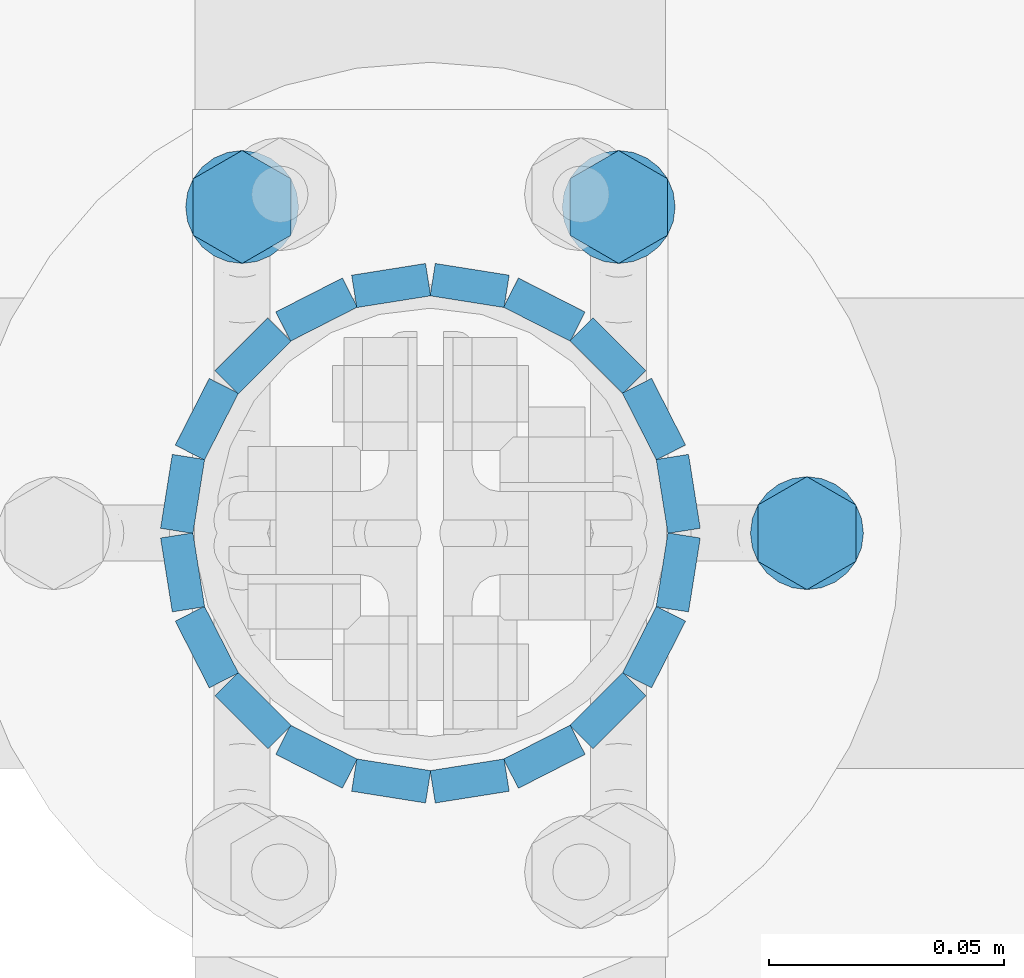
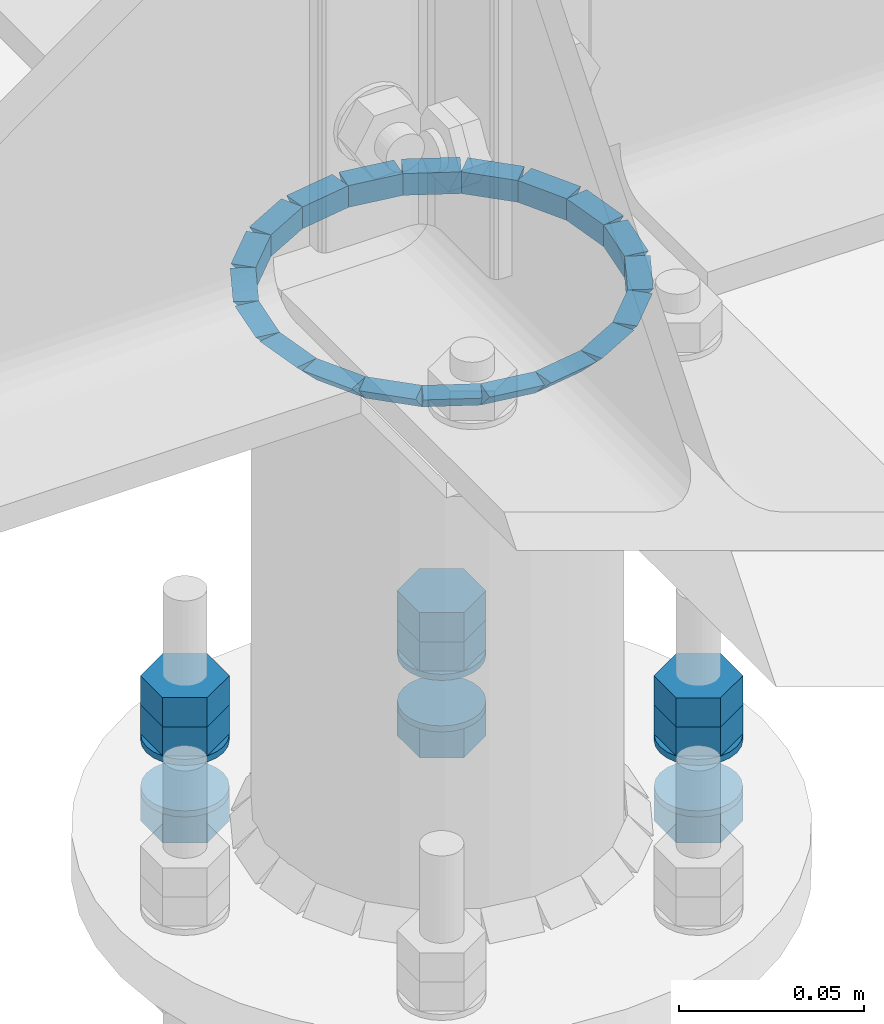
# One storey, part 59 of 84: 40 fasteners, 15 mechanical fasteners.
"""IFC4 building model written with IfcOpenShell, lengths in metres."""

from ifc_helpers import new_model, si_unit, frame, origin_with_axes, place, context, project, spatial, polyline, outline, extrude, type_object, element, save


model = new_model("IFC4")

# Units and contexts
model_context = context("Model", 3, precision=1e-05, world=origin_with_axes())
ifc_project = project(units=[si_unit("LENGTHUNIT", "METRE"), si_unit("AREAUNIT", "SQUARE_METRE"), si_unit("VOLUMEUNIT", "CUBIC_METRE"), si_unit("MASSUNIT", "GRAM", prefix="KILO"), si_unit("TIMEUNIT", "SECOND"), si_unit("PLANEANGLEUNIT", "RADIAN"), si_unit("SOLIDANGLEUNIT", "STERADIAN"), si_unit("THERMODYNAMICTEMPERATUREUNIT", "DEGREE_CELSIUS")], contexts=[model_context])

# Site, building, storey
placement_1 = place(None, origin_with_axes())
site = spatial("IfcSite", under=ifc_project, at=placement_1, Name="Italia", CompositionType="ELEMENT")
building = spatial("IfcBuilding", under=site, at=placement_1, Name="Tettoia", CompositionType="ELEMENT")
storey_placement = place(None, frame((0.0, 0.0, 4.199999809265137), z_axis=(0.0, 0.0, 1.0), x_axis=(1.0, 0.0, 0.0)))
storey = spatial("IfcBuildingStorey", under=building, at=storey_placement, Name="Storey 1", CompositionType="ELEMENT", Elevation=4.199999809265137)

# Mechanical fasteners
mechanical_fastener_type_1 = type_object("IfcMechanicalFastenerType", Name="Collegamento -009_0109", PredefinedType="BOLT")
placement_2 = place(placement_1, origin_with_axes())
mechanical_fastener_1_placement = place(placement_2, origin_with_axes())
element("IfcMechanicalFastener", 1, at=mechanical_fastener_1_placement, inside=storey, type_object=mechanical_fastener_type_1, Name="Collegamento -009_0109", NominalDiameter=0.0119991, context=model_context, shape_type="SweptSolid", body=[
    extrude(outline(polyline([(0.0, 0.0), (-0.0119991, 0.0), (-0.0179996, 0.0103922), (-0.0119991, 0.0207844), (0.0, 0.0207844), (0.00600052, 0.0103922), (0.0, 0.0)])), frame((8.38039, 9.976, 4.017), z_axis=(0.0, 0.0, 1.0), x_axis=(0.0, 1.0, 0.0)), (0.0, 0.0, 1.0), 0.00959969),
])
mechanical_fastener_type_2 = type_object("IfcMechanicalFastenerType", Name="Collegamento -009_0109", PredefinedType="BOLT")
mechanical_fastener_2_placement = place(placement_2, origin_with_axes())
element("IfcMechanicalFastener", 2, at=mechanical_fastener_2_placement, inside=storey, type_object=mechanical_fastener_type_2, Name="Collegamento -009_0109", NominalDiameter=0.0119991, context=model_context, shape_type="SweptSolid", body=[
    extrude(outline(polyline([(0.0, 0.0), (-0.0119991, 0.0), (-0.0179996, 0.0103922), (-0.0119991, 0.0207844), (0.0, 0.0207844), (0.00600052, 0.0103922), (0.0, 0.0)])), frame((8.38039, 9.976, 4.0266), z_axis=(0.0, 0.0, 1.0), x_axis=(0.0, 1.0, 0.0)), (0.0, 0.0, 1.0), 0.00960016),
])
mechanical_fastener_type_3 = type_object("IfcMechanicalFastenerType", Name="Collegamento -009_0109", PredefinedType="BOLT")
mechanical_fastener_3_placement = place(placement_2, origin_with_axes())
element("IfcMechanicalFastener", 3, at=mechanical_fastener_3_placement, inside=storey, type_object=mechanical_fastener_type_3, Name="Collegamento -009_0109", NominalDiameter=0.0119991, context=model_context, shape_type="SweptSolid", body=[
    extrude(outline(polyline([(0.0, 0.0), (-0.0119991, 0.0), (-0.0179996, 0.0103922), (-0.0119991, 0.0207844), (0.0, 0.0207844), (0.00600052, 0.0103922), (0.0, 0.0)])), frame((8.38039, 9.976, 3.9884), z_axis=(0.0, 0.0, 1.0), x_axis=(0.0, 1.0, 0.0)), (0.0, 0.0, 1.0), 0.00959992),
])
mechanical_fastener_type_4 = type_object("IfcMechanicalFastenerType", Name="Collegamento -009_0109", PredefinedType="BOLT")
mechanical_fastener_4_placement = place(placement_2, origin_with_axes())
element("IfcMechanicalFastener", 4, at=mechanical_fastener_4_placement, inside=storey, type_object=mechanical_fastener_type_4, Name="Collegamento -009_0109", NominalDiameter=0.024, context=model_context, shape_type="SweptSolid", body=[
    extrude(outline(polyline([(0.0, 0.0), (-0.000409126, -0.00310612), (-0.00160789, -0.00599957), (-0.00351524, -0.00848484), (-0.00600052, -0.0103922), (-0.00889397, -0.011591), (-0.0120001, -0.0120001), (-0.0151062, -0.011591), (-0.0179996, -0.0103922), (-0.0204849, -0.00848484), (-0.0223923, -0.00599957), (-0.023591, -0.00310612), (-0.0240002, 0.0), (-0.023591, 0.00310612), (-0.0223923, 0.00599957), (-0.0204849, 0.00848484), (-0.0179996, 0.0103922), (-0.0151062, 0.011591), (-0.0120001, 0.0120001), (-0.00889397, 0.011591), (-0.00600052, 0.0103922), (-0.00351524, 0.00848484), (-0.00160789, 0.00599957), (-0.000409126, 0.00310612), (0.0, 0.0)])), frame((8.37, 9.982, 4.015), z_axis=(0.0, 0.0, 1.0), x_axis=(0.0, 1.0, 0.0)), (0.0, 0.0, 1.0), 0.00200033),
])
mechanical_fastener_type_5 = type_object("IfcMechanicalFastenerType", Name="Collegamento -009_0109", PredefinedType="BOLT")
mechanical_fastener_5_placement = place(placement_2, origin_with_axes())
element("IfcMechanicalFastener", 5, at=mechanical_fastener_5_placement, inside=storey, type_object=mechanical_fastener_type_5, Name="Collegamento -009_0109", NominalDiameter=0.024, context=model_context, shape_type="SweptSolid", body=[
    extrude(outline(polyline([(0.0, 0.0), (-0.000409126, -0.00310612), (-0.00160789, -0.00599957), (-0.00351524, -0.00848484), (-0.00600052, -0.0103922), (-0.00889397, -0.011591), (-0.0120001, -0.0120001), (-0.0151062, -0.011591), (-0.0179996, -0.0103922), (-0.0204849, -0.00848484), (-0.0223923, -0.00599957), (-0.023591, -0.00310612), (-0.0240002, 0.0), (-0.023591, 0.00310612), (-0.0223923, 0.00599957), (-0.0204849, 0.00848484), (-0.0179996, 0.0103922), (-0.0151062, 0.011591), (-0.0120001, 0.0120001), (-0.00889397, 0.011591), (-0.00600052, 0.0103922), (-0.00351524, 0.00848484), (-0.00160789, 0.00599957), (-0.000409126, 0.00310612), (0.0, 0.0)])), frame((8.37, 9.982, 3.998), z_axis=(0.0, 0.0, 1.0), x_axis=(0.0, 1.0, 0.0)), (0.0, 0.0, 1.0), 0.00200009),
])
mechanical_fastener_type_6 = type_object("IfcMechanicalFastenerType", Name="Collegamento -009_0109", PredefinedType="BOLT")
mechanical_fastener_6_placement = place(placement_2, origin_with_axes())
element("IfcMechanicalFastener", 6, at=mechanical_fastener_6_placement, inside=storey, type_object=mechanical_fastener_type_6, Name="Collegamento -009_0109", NominalDiameter=0.0119997, context=model_context, shape_type="SweptSolid", body=[
    extrude(outline(polyline([(0.0, 0.0), (-0.0120001, 0.0), (-0.0179996, 0.0103922), (-0.0120001, 0.0207844), (0.0, 0.0207844), (0.00599957, 0.0103922), (0.0, 0.0)])), frame((8.34039, 10.0453, 4.017), z_axis=(0.0, 0.0, 1.0), x_axis=(0.0, 1.0, 0.0)), (0.0, 0.0, 1.0), 0.00959969),
])
mechanical_fastener_type_7 = type_object("IfcMechanicalFastenerType", Name="Collegamento -009_0109", PredefinedType="BOLT")
mechanical_fastener_7_placement = place(placement_2, origin_with_axes())
element("IfcMechanicalFastener", 7, at=mechanical_fastener_7_placement, inside=storey, type_object=mechanical_fastener_type_7, Name="Collegamento -009_0109", NominalDiameter=0.0119997, context=model_context, shape_type="SweptSolid", body=[
    extrude(outline(polyline([(0.0, 0.0), (-0.0120001, 0.0), (-0.0179996, 0.0103922), (-0.0120001, 0.0207844), (0.0, 0.0207844), (0.00599957, 0.0103922), (0.0, 0.0)])), frame((8.34039, 10.0453, 4.0266), z_axis=(0.0, 0.0, 1.0), x_axis=(0.0, 1.0, 0.0)), (0.0, 0.0, 1.0), 0.00960016),
])
mechanical_fastener_type_8 = type_object("IfcMechanicalFastenerType", Name="Collegamento -009_0109", PredefinedType="BOLT")
mechanical_fastener_8_placement = place(placement_2, origin_with_axes())
element("IfcMechanicalFastener", 8, at=mechanical_fastener_8_placement, inside=storey, type_object=mechanical_fastener_type_8, Name="Collegamento -009_0109", NominalDiameter=0.0119997, context=model_context, shape_type="SweptSolid", body=[
    extrude(outline(polyline([(0.0, 0.0), (-0.0120001, 0.0), (-0.0179996, 0.0103922), (-0.0120001, 0.0207844), (0.0, 0.0207844), (0.00599957, 0.0103922), (0.0, 0.0)])), frame((8.34039, 10.0453, 3.9884), z_axis=(0.0, 0.0, 1.0), x_axis=(0.0, 1.0, 0.0)), (0.0, 0.0, 1.0), 0.00959992),
])
mechanical_fastener_type_9 = type_object("IfcMechanicalFastenerType", Name="Collegamento -009_0109", PredefinedType="BOLT")
mechanical_fastener_9_placement = place(placement_2, origin_with_axes())
element("IfcMechanicalFastener", 9, at=mechanical_fastener_9_placement, inside=storey, type_object=mechanical_fastener_type_9, Name="Collegamento -009_0109", NominalDiameter=0.024, context=model_context, shape_type="SweptSolid", body=[
    extrude(outline(polyline([(0.0, 0.0), (-0.000409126, -0.00310612), (-0.00160789, -0.00599957), (-0.00351524, -0.00848484), (-0.00600052, -0.0103922), (-0.00889397, -0.011591), (-0.0120001, -0.0120001), (-0.0151062, -0.011591), (-0.0179996, -0.0103922), (-0.0204849, -0.00848484), (-0.0223923, -0.00599957), (-0.023591, -0.00310612), (-0.0240002, 0.0), (-0.023591, 0.00310612), (-0.0223923, 0.00599957), (-0.0204849, 0.00848484), (-0.0179996, 0.0103922), (-0.0151062, 0.011591), (-0.0120001, 0.0120001), (-0.00889397, 0.011591), (-0.00600052, 0.0103922), (-0.00351524, 0.00848484), (-0.00160789, 0.00599957), (-0.000409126, 0.00310612), (0.0, 0.0)])), frame((8.33, 10.0513, 4.015), z_axis=(0.0, 0.0, 1.0), x_axis=(0.0, 1.0, 0.0)), (0.0, 0.0, 1.0), 0.00200033),
])
mechanical_fastener_type_10 = type_object("IfcMechanicalFastenerType", Name="Collegamento -009_0109", PredefinedType="BOLT")
mechanical_fastener_10_placement = place(placement_2, origin_with_axes())
element("IfcMechanicalFastener", 10, at=mechanical_fastener_10_placement, inside=storey, type_object=mechanical_fastener_type_10, Name="Collegamento -009_0109", NominalDiameter=0.024, context=model_context, shape_type="SweptSolid", body=[
    extrude(outline(polyline([(0.0, 0.0), (-0.000409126, -0.00310612), (-0.00160789, -0.00599957), (-0.00351524, -0.00848484), (-0.00600052, -0.0103922), (-0.00889397, -0.011591), (-0.0120001, -0.0120001), (-0.0151062, -0.011591), (-0.0179996, -0.0103922), (-0.0204849, -0.00848484), (-0.0223923, -0.00599957), (-0.023591, -0.00310612), (-0.0240002, 0.0), (-0.023591, 0.00310612), (-0.0223923, 0.00599957), (-0.0204849, 0.00848484), (-0.0179996, 0.0103922), (-0.0151062, 0.011591), (-0.0120001, 0.0120001), (-0.00889397, 0.011591), (-0.00600052, 0.0103922), (-0.00351524, 0.00848484), (-0.00160789, 0.00599957), (-0.000409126, 0.00310612), (0.0, 0.0)])), frame((8.33, 10.0513, 3.998), z_axis=(0.0, 0.0, 1.0), x_axis=(0.0, 1.0, 0.0)), (0.0, 0.0, 1.0), 0.00200009),
])
mechanical_fastener_type_11 = type_object("IfcMechanicalFastenerType", Name="Collegamento -009_0109", PredefinedType="BOLT")
mechanical_fastener_11_placement = place(placement_2, origin_with_axes())
element("IfcMechanicalFastener", 11, at=mechanical_fastener_11_placement, inside=storey, type_object=mechanical_fastener_type_11, Name="Collegamento -009_0109", NominalDiameter=0.0119997, context=model_context, shape_type="SweptSolid", body=[
    extrude(outline(polyline([(0.0, 0.0), (-0.0120001, 0.0), (-0.0179996, 0.0103922), (-0.0120001, 0.0207844), (0.0, 0.0207844), (0.00599957, 0.0103922), (0.0, 0.0)])), frame((8.26039, 10.0453, 4.017), z_axis=(0.0, 0.0, 1.0), x_axis=(0.0, 1.0, 0.0)), (0.0, 0.0, 1.0), 0.00959969),
])
mechanical_fastener_type_12 = type_object("IfcMechanicalFastenerType", Name="Collegamento -009_0109", PredefinedType="BOLT")
mechanical_fastener_12_placement = place(placement_2, origin_with_axes())
element("IfcMechanicalFastener", 12, at=mechanical_fastener_12_placement, inside=storey, type_object=mechanical_fastener_type_12, Name="Collegamento -009_0109", NominalDiameter=0.0119997, context=model_context, shape_type="SweptSolid", body=[
    extrude(outline(polyline([(0.0, 0.0), (-0.0120001, 0.0), (-0.0179996, 0.0103922), (-0.0120001, 0.0207844), (0.0, 0.0207844), (0.00599957, 0.0103922), (0.0, 0.0)])), frame((8.26039, 10.0453, 4.0266), z_axis=(0.0, 0.0, 1.0), x_axis=(0.0, 1.0, 0.0)), (0.0, 0.0, 1.0), 0.00960016),
])
mechanical_fastener_type_13 = type_object("IfcMechanicalFastenerType", Name="Collegamento -009_0109", PredefinedType="BOLT")
mechanical_fastener_13_placement = place(placement_2, origin_with_axes())
element("IfcMechanicalFastener", 13, at=mechanical_fastener_13_placement, inside=storey, type_object=mechanical_fastener_type_13, Name="Collegamento -009_0109", NominalDiameter=0.0119997, context=model_context, shape_type="SweptSolid", body=[
    extrude(outline(polyline([(0.0, 0.0), (-0.0120001, 0.0), (-0.0179996, 0.0103922), (-0.0120001, 0.0207844), (0.0, 0.0207844), (0.00599957, 0.0103922), (0.0, 0.0)])), frame((8.26039, 10.0453, 3.9884), z_axis=(0.0, 0.0, 1.0), x_axis=(0.0, 1.0, 0.0)), (0.0, 0.0, 1.0), 0.00959992),
])
mechanical_fastener_type_14 = type_object("IfcMechanicalFastenerType", Name="Collegamento -009_0109", PredefinedType="BOLT")
mechanical_fastener_14_placement = place(placement_2, origin_with_axes())
element("IfcMechanicalFastener", 14, at=mechanical_fastener_14_placement, inside=storey, type_object=mechanical_fastener_type_14, Name="Collegamento -009_0109", NominalDiameter=0.024, context=model_context, shape_type="SweptSolid", body=[
    extrude(outline(polyline([(0.0, 0.0), (-0.000409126, -0.00310612), (-0.00160789, -0.00599957), (-0.00351524, -0.00848484), (-0.00600052, -0.0103922), (-0.00889397, -0.011591), (-0.0120001, -0.0120001), (-0.0151062, -0.011591), (-0.0179996, -0.0103922), (-0.0204849, -0.00848484), (-0.0223923, -0.00599957), (-0.023591, -0.00310612), (-0.0240002, 0.0), (-0.023591, 0.00310612), (-0.0223923, 0.00599957), (-0.0204849, 0.00848484), (-0.0179996, 0.0103922), (-0.0151062, 0.011591), (-0.0120001, 0.0120001), (-0.00889397, 0.011591), (-0.00600052, 0.0103922), (-0.00351524, 0.00848484), (-0.00160789, 0.00599957), (-0.000409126, 0.00310612), (0.0, 0.0)])), frame((8.25, 10.0513, 4.015), z_axis=(0.0, 0.0, 1.0), x_axis=(0.0, 1.0, 0.0)), (0.0, 0.0, 1.0), 0.00200033),
])
mechanical_fastener_type_15 = type_object("IfcMechanicalFastenerType", Name="Collegamento -009_0109", PredefinedType="BOLT")
mechanical_fastener_15_placement = place(placement_2, origin_with_axes())
element("IfcMechanicalFastener", 15, at=mechanical_fastener_15_placement, inside=storey, type_object=mechanical_fastener_type_15, Name="Collegamento -009_0109", NominalDiameter=0.024, context=model_context, shape_type="SweptSolid", body=[
    extrude(outline(polyline([(0.0, 0.0), (-0.000409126, -0.00310612), (-0.00160789, -0.00599957), (-0.00351524, -0.00848484), (-0.00600052, -0.0103922), (-0.00889397, -0.011591), (-0.0120001, -0.0120001), (-0.0151062, -0.011591), (-0.0179996, -0.0103922), (-0.0204849, -0.00848484), (-0.0223923, -0.00599957), (-0.023591, -0.00310612), (-0.0240002, 0.0), (-0.023591, 0.00310612), (-0.0223923, 0.00599957), (-0.0204849, 0.00848484), (-0.0179996, 0.0103922), (-0.0151062, 0.011591), (-0.0120001, 0.0120001), (-0.00889397, 0.011591), (-0.00600052, 0.0103922), (-0.00351524, 0.00848484), (-0.00160789, 0.00599957), (-0.000409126, 0.00310612), (0.0, 0.0)])), frame((8.25, 10.0513, 3.998), z_axis=(0.0, 0.0, 1.0), x_axis=(0.0, 1.0, 0.0)), (0.0, 0.0, 1.0), 0.00200009),
])

# Fasteners
fastener_type_1 = type_object("IfcFastenerType", Name="Collegamento 0109_-009", PredefinedType="WELD")
fastener_1_placement = place(placement_2, origin_with_axes())
element("IfcFastener", 16, at=fastener_1_placement, inside=storey, type_object=fastener_type_1, Name="Collegamento 0109_-009", context=model_context, shape_type="SweptSolid", body=[
    extrude(outline(polyline([(0.0, 0.0), (-0.00695801, -0.00717354), (-0.00695801, 0.0), (0.0, 0.0)])), frame((8.29103, 10.0273, 4.19505), z_axis=(0.987678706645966, -0.156495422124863, 0.0), x_axis=(0.156495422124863, 0.987678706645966, 0.0)), (0.0, 0.0, 1.0), 0.0158991),
])
fastener_type_2 = type_object("IfcFastenerType", Name="Collegamento 0109_-009", PredefinedType="WELD")
fastener_2_placement = place(placement_2, origin_with_axes())
element("IfcFastener", 17, at=fastener_2_placement, inside=storey, type_object=fastener_type_2, Name="Collegamento 0109_-009", context=model_context, shape_type="SweptSolid", body=[
    extrude(outline(polyline([(0.0, 0.0), (-0.00695801, -0.00717354), (-0.00695801, 0.0), (0.0, 0.0)])), frame((8.3087, 10.0242, 4.19505), z_axis=(0.891030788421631, -0.453942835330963, 0.0), x_axis=(0.453942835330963, 0.891030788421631, 0.0)), (0.0, 0.0, 1.0), 0.0158994),
])
fastener_type_3 = type_object("IfcFastenerType", Name="Collegamento 0109_-009", PredefinedType="WELD")
fastener_3_placement = place(placement_2, origin_with_axes())
element("IfcFastener", 18, at=fastener_3_placement, inside=storey, type_object=fastener_type_3, Name="Collegamento 0109_-009", context=model_context, shape_type="SweptSolid", body=[
    extrude(outline(polyline([(0.0, 0.0), (-0.00695801, -0.00717354), (-0.00695801, 0.0), (0.0, 0.0)])), frame((8.32453, 10.0158, 4.19505), z_axis=(0.70710676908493, -0.70710676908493, 0.0), x_axis=(0.70710676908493, 0.70710676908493, 0.0)), (0.0, 0.0, 1.0), 0.0158998),
])
fastener_type_4 = type_object("IfcFastenerType", Name="Collegamento 0109_-009", PredefinedType="WELD")
fastener_4_placement = place(placement_2, origin_with_axes())
element("IfcFastener", 19, at=fastener_4_placement, inside=storey, type_object=fastener_type_4, Name="Collegamento 0109_-009", context=model_context, shape_type="SweptSolid", body=[
    extrude(outline(polyline([(0.0, 0.0), (-0.00695896, -0.00717354), (-0.00695896, 0.0), (0.0, 0.0)])), frame((8.33699, 10.0029, 4.19505), z_axis=(0.453942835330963, -0.891030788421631, 0.0), x_axis=(0.891030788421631, 0.453942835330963, 0.0)), (0.0, 0.0, 1.0), 0.0158994),
])
fastener_type_5 = type_object("IfcFastenerType", Name="Collegamento 0109_-009", PredefinedType="WELD")
fastener_5_placement = place(placement_2, origin_with_axes())
element("IfcFastener", 20, at=fastener_5_placement, inside=storey, type_object=fastener_type_5, Name="Collegamento 0109_-009", context=model_context, shape_type="SweptSolid", body=[
    extrude(outline(polyline([(0.0, 0.0), (-0.00695801, -0.00717354), (-0.00695801, 0.0), (0.0, 0.0)])), frame((8.34484, 9.98674, 4.19505), z_axis=(0.156495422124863, -0.987678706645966, 0.0), x_axis=(0.987678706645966, 0.156495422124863, 0.0)), (0.0, 0.0, 1.0), 0.0158991),
])
fastener_type_6 = type_object("IfcFastenerType", Name="Collegamento 0109_-009", PredefinedType="WELD")
fastener_6_placement = place(placement_2, origin_with_axes())
element("IfcFastener", 21, at=fastener_6_placement, inside=storey, type_object=fastener_type_6, Name="Collegamento 0109_-009", context=model_context, shape_type="SweptSolid", body=[
    extrude(outline(polyline([(0.0, 0.0), (-0.00695896, -0.00717354), (-0.00695896, 0.0), (0.0, 0.0)])), frame((8.34733, 9.96897, 4.19505), z_axis=(-0.156495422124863, -0.987678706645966, 0.0), x_axis=(0.987678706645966, -0.156495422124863, 0.0)), (0.0, 0.0, 1.0), 0.0158991),
])
fastener_type_7 = type_object("IfcFastenerType", Name="Collegamento 0109_-009", PredefinedType="WELD")
fastener_7_placement = place(placement_2, origin_with_axes())
element("IfcFastener", 22, at=fastener_7_placement, inside=storey, type_object=fastener_type_7, Name="Collegamento 0109_-009", context=model_context, shape_type="SweptSolid", body=[
    extrude(outline(polyline([(0.0, 0.0), (-0.00695848, -0.00717354), (-0.00695848, 0.0), (0.0, 0.0)])), frame((8.34421, 9.9513, 4.19505), z_axis=(-0.453942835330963, -0.891030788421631, 0.0), x_axis=(0.891030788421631, -0.453942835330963, 0.0)), (0.0, 0.0, 1.0), 0.0158994),
])
fastener_type_8 = type_object("IfcFastenerType", Name="Collegamento 0109_-009", PredefinedType="WELD")
fastener_8_placement = place(placement_2, origin_with_axes())
element("IfcFastener", 23, at=fastener_8_placement, inside=storey, type_object=fastener_type_8, Name="Collegamento 0109_-009", context=model_context, shape_type="SweptSolid", body=[
    extrude(outline(polyline([(0.0, 0.0), (-0.00695801, -0.00717354), (-0.00695801, 0.0), (0.0, 0.0)])), frame((8.33578, 9.93547, 4.19505), z_axis=(-0.70710676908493, -0.70710676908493, 0.0), x_axis=(0.70710676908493, -0.70710676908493, 0.0)), (0.0, 0.0, 1.0), 0.0158998),
])
fastener_type_9 = type_object("IfcFastenerType", Name="Collegamento 0109_-009", PredefinedType="WELD")
fastener_9_placement = place(placement_2, origin_with_axes())
element("IfcFastener", 24, at=fastener_9_placement, inside=storey, type_object=fastener_type_9, Name="Collegamento 0109_-009", context=model_context, shape_type="SweptSolid", body=[
    extrude(outline(polyline([(0.0, 0.0), (-0.00695848, -0.00717354), (-0.00695848, 0.0), (0.0, 0.0)])), frame((8.32286, 9.92301, 4.19505), z_axis=(-0.891030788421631, -0.453942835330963, 0.0), x_axis=(0.453942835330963, -0.891030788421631, 0.0)), (0.0, 0.0, 1.0), 0.0158994),
])
fastener_type_10 = type_object("IfcFastenerType", Name="Collegamento 0109_-009", PredefinedType="WELD")
fastener_10_placement = place(placement_2, origin_with_axes())
element("IfcFastener", 25, at=fastener_10_placement, inside=storey, type_object=fastener_type_10, Name="Collegamento 0109_-009", context=model_context, shape_type="SweptSolid", body=[
    extrude(outline(polyline([(0.0, 0.0), (-0.00695705, -0.00717354), (-0.00695705, 0.0), (0.0, 0.0)])), frame((8.30674, 9.91516, 4.19505), z_axis=(-0.987678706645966, -0.156495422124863, 0.0), x_axis=(0.156495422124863, -0.987678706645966, 0.0)), (0.0, 0.0, 1.0), 0.0158991),
])
fastener_type_11 = type_object("IfcFastenerType", Name="Collegamento 0109_-009", PredefinedType="WELD")
fastener_11_placement = place(placement_2, origin_with_axes())
element("IfcFastener", 26, at=fastener_11_placement, inside=storey, type_object=fastener_type_11, Name="Collegamento 0109_-009", context=model_context, shape_type="SweptSolid", body=[
    extrude(outline(polyline([(0.0, 0.0), (-0.00695801, -0.00717354), (-0.00695801, 0.0), (0.0, 0.0)])), frame((8.28897, 9.91267, 4.19505), z_axis=(-0.987678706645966, 0.156495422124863, 0.0), x_axis=(-0.156495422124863, -0.987678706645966, 0.0)), (0.0, 0.0, 1.0), 0.0158991),
])
fastener_type_12 = type_object("IfcFastenerType", Name="Collegamento 0109_-009", PredefinedType="WELD")
fastener_12_placement = place(placement_2, origin_with_axes())
element("IfcFastener", 27, at=fastener_12_placement, inside=storey, type_object=fastener_type_12, Name="Collegamento 0109_-009", context=model_context, shape_type="SweptSolid", body=[
    extrude(outline(polyline([(0.0, 0.0), (-0.00695801, -0.00717354), (-0.00695801, 0.0), (0.0, 0.0)])), frame((8.2713, 9.91579, 4.19505), z_axis=(-0.891030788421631, 0.453942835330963, 0.0), x_axis=(-0.453942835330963, -0.891030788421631, 0.0)), (0.0, 0.0, 1.0), 0.0158994),
])
fastener_type_13 = type_object("IfcFastenerType", Name="Collegamento 0109_-009", PredefinedType="WELD")
fastener_13_placement = place(placement_2, origin_with_axes())
element("IfcFastener", 28, at=fastener_13_placement, inside=storey, type_object=fastener_type_13, Name="Collegamento 0109_-009", context=model_context, shape_type="SweptSolid", body=[
    extrude(outline(polyline([(0.0, 0.0), (-0.00695801, -0.00717354), (-0.00695801, 0.0), (0.0, 0.0)])), frame((8.25547, 9.92422, 4.19505), z_axis=(-0.70710676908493, 0.70710676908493, 0.0), x_axis=(-0.70710676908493, -0.70710676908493, 0.0)), (0.0, 0.0, 1.0), 0.0158998),
])
fastener_type_14 = type_object("IfcFastenerType", Name="Collegamento 0109_-009", PredefinedType="WELD")
fastener_14_placement = place(placement_2, origin_with_axes())
element("IfcFastener", 29, at=fastener_14_placement, inside=storey, type_object=fastener_type_14, Name="Collegamento 0109_-009", context=model_context, shape_type="SweptSolid", body=[
    extrude(outline(polyline([(0.0, 0.0), (-0.00695896, -0.00717354), (-0.00695896, 0.0), (0.0, 0.0)])), frame((8.24301, 9.93714, 4.19505), z_axis=(-0.453942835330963, 0.891030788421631, 0.0), x_axis=(-0.891030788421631, -0.453942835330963, 0.0)), (0.0, 0.0, 1.0), 0.0158994),
])
fastener_type_15 = type_object("IfcFastenerType", Name="Collegamento 0109_-009", PredefinedType="WELD")
fastener_15_placement = place(placement_2, origin_with_axes())
element("IfcFastener", 30, at=fastener_15_placement, inside=storey, type_object=fastener_type_15, Name="Collegamento 0109_-009", context=model_context, shape_type="SweptSolid", body=[
    extrude(outline(polyline([(0.0, 0.0), (-0.00695896, -0.00717354), (-0.00695896, 0.0), (0.0, 0.0)])), frame((8.23516, 9.95327, 4.19505), z_axis=(-0.156495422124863, 0.987678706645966, 0.0), x_axis=(-0.987678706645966, -0.156495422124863, 0.0)), (0.0, 0.0, 1.0), 0.0158991),
])
fastener_type_16 = type_object("IfcFastenerType", Name="Collegamento 0109_-009", PredefinedType="WELD")
fastener_16_placement = place(placement_2, origin_with_axes())
element("IfcFastener", 31, at=fastener_16_placement, inside=storey, type_object=fastener_type_16, Name="Collegamento 0109_-009", context=model_context, shape_type="SweptSolid", body=[
    extrude(outline(polyline([(0.0, 0.0), (-0.00695992, -0.00717354), (-0.00695992, 0.0), (0.0, 0.0)])), frame((8.23267, 9.97103, 4.19505), z_axis=(0.156495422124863, 0.987678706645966, 0.0), x_axis=(-0.987678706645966, 0.156495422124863, 0.0)), (0.0, 0.0, 1.0), 0.0158991),
])
fastener_type_17 = type_object("IfcFastenerType", Name="Collegamento 0109_-009", PredefinedType="WELD")
fastener_17_placement = place(placement_2, origin_with_axes())
element("IfcFastener", 32, at=fastener_17_placement, inside=storey, type_object=fastener_type_17, Name="Collegamento 0109_-009", context=model_context, shape_type="SweptSolid", body=[
    extrude(outline(polyline([(0.0, 0.0), (-0.00695848, -0.00717354), (-0.00695848, 0.0), (0.0, 0.0)])), frame((8.23579, 9.9887, 4.19505), z_axis=(0.453942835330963, 0.891030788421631, 0.0), x_axis=(-0.891030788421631, 0.453942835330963, 0.0)), (0.0, 0.0, 1.0), 0.0158994),
])
fastener_type_18 = type_object("IfcFastenerType", Name="Collegamento 0109_-009", PredefinedType="WELD")
fastener_18_placement = place(placement_2, origin_with_axes())
element("IfcFastener", 33, at=fastener_18_placement, inside=storey, type_object=fastener_type_18, Name="Collegamento 0109_-009", context=model_context, shape_type="SweptSolid", body=[
    extrude(outline(polyline([(0.0, 0.0), (-0.00695801, -0.00717354), (-0.00695801, 0.0), (0.0, 0.0)])), frame((8.24422, 10.0045, 4.19505), z_axis=(0.70710676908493, 0.70710676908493, 0.0), x_axis=(-0.70710676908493, 0.70710676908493, 0.0)), (0.0, 0.0, 1.0), 0.0158998),
])
fastener_type_19 = type_object("IfcFastenerType", Name="Collegamento 0109_-009", PredefinedType="WELD")
fastener_19_placement = place(placement_2, origin_with_axes())
element("IfcFastener", 34, at=fastener_19_placement, inside=storey, type_object=fastener_type_19, Name="Collegamento 0109_-009", context=model_context, shape_type="SweptSolid", body=[
    extrude(outline(polyline([(0.0, 0.0), (-0.00695896, -0.00717354), (-0.00695896, 0.0), (0.0, 0.0)])), frame((8.25714, 10.017, 4.19505), z_axis=(0.891030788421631, 0.453942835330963, 0.0), x_axis=(-0.453942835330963, 0.891030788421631, 0.0)), (0.0, 0.0, 1.0), 0.0158994),
])
fastener_type_20 = type_object("IfcFastenerType", Name="Collegamento 0109_-009", PredefinedType="WELD")
fastener_20_placement = place(placement_2, origin_with_axes())
element("IfcFastener", 35, at=fastener_20_placement, inside=storey, type_object=fastener_type_20, Name="Collegamento 0109_-009", context=model_context, shape_type="SweptSolid", body=[
    extrude(outline(polyline([(0.0, 0.0), (-0.00695705, -0.00717354), (-0.00695705, 0.0), (0.0, 0.0)])), frame((8.27326, 10.0248, 4.19505), z_axis=(0.987678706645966, 0.156495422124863, 0.0), x_axis=(-0.156495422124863, 0.987678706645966, 0.0)), (0.0, 0.0, 1.0), 0.0158991),
])
fastener_type_21 = type_object("IfcFastenerType", Name="Collegamento 0109_-009", PredefinedType="WELD")
fastener_21_placement = place(placement_2, origin_with_axes())
element("IfcFastener", 36, at=fastener_21_placement, inside=storey, type_object=fastener_type_21, Name="Collegamento 0109_-009", context=model_context, shape_type="SweptSolid", body=[
    extrude(outline(polyline([(0.0, 0.0), (-0.00695801, -0.00717354), (-0.00695801, 0.0), (0.0, 0.0)])), frame((8.29103, 10.0273, 4.19505), z_axis=(0.987678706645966, -0.156495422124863, 0.0), x_axis=(0.156495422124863, 0.987678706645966, 0.0)), (0.0, 0.0, 1.0), 0.0158991),
])
fastener_type_22 = type_object("IfcFastenerType", Name="Collegamento 0109_-009", PredefinedType="WELD")
fastener_22_placement = place(placement_2, origin_with_axes())
element("IfcFastener", 37, at=fastener_22_placement, inside=storey, type_object=fastener_type_22, Name="Collegamento 0109_-009", context=model_context, shape_type="SweptSolid", body=[
    extrude(outline(polyline([(0.0, 0.0), (-0.00695801, -0.00717354), (-0.00695801, 0.0), (0.0, 0.0)])), frame((8.3087, 10.0242, 4.19505), z_axis=(0.891030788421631, -0.453942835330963, 0.0), x_axis=(0.453942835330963, 0.891030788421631, 0.0)), (0.0, 0.0, 1.0), 0.0158994),
])
fastener_type_23 = type_object("IfcFastenerType", Name="Collegamento 0109_-009", PredefinedType="WELD")
fastener_23_placement = place(placement_2, origin_with_axes())
element("IfcFastener", 38, at=fastener_23_placement, inside=storey, type_object=fastener_type_23, Name="Collegamento 0109_-009", context=model_context, shape_type="SweptSolid", body=[
    extrude(outline(polyline([(0.0, 0.0), (-0.00695801, -0.00717354), (-0.00695801, 0.0), (0.0, 0.0)])), frame((8.32453, 10.0158, 4.19505), z_axis=(0.70710676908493, -0.70710676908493, 0.0), x_axis=(0.70710676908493, 0.70710676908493, 0.0)), (0.0, 0.0, 1.0), 0.0158998),
])
fastener_type_24 = type_object("IfcFastenerType", Name="Collegamento 0109_-009", PredefinedType="WELD")
fastener_24_placement = place(placement_2, origin_with_axes())
element("IfcFastener", 39, at=fastener_24_placement, inside=storey, type_object=fastener_type_24, Name="Collegamento 0109_-009", context=model_context, shape_type="SweptSolid", body=[
    extrude(outline(polyline([(0.0, 0.0), (-0.00695896, -0.00717354), (-0.00695896, 0.0), (0.0, 0.0)])), frame((8.33699, 10.0029, 4.19505), z_axis=(0.453942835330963, -0.891030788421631, 0.0), x_axis=(0.891030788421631, 0.453942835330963, 0.0)), (0.0, 0.0, 1.0), 0.0158994),
])
fastener_type_25 = type_object("IfcFastenerType", Name="Collegamento 0109_-009", PredefinedType="WELD")
fastener_25_placement = place(placement_2, origin_with_axes())
element("IfcFastener", 40, at=fastener_25_placement, inside=storey, type_object=fastener_type_25, Name="Collegamento 0109_-009", context=model_context, shape_type="SweptSolid", body=[
    extrude(outline(polyline([(0.0, 0.0), (-0.00695801, -0.00717354), (-0.00695801, 0.0), (0.0, 0.0)])), frame((8.34484, 9.98674, 4.19505), z_axis=(0.156495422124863, -0.987678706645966, 0.0), x_axis=(0.987678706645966, 0.156495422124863, 0.0)), (0.0, 0.0, 1.0), 0.0158991),
])
fastener_type_26 = type_object("IfcFastenerType", Name="Collegamento 0109_-009", PredefinedType="WELD")
fastener_26_placement = place(placement_2, origin_with_axes())
element("IfcFastener", 41, at=fastener_26_placement, inside=storey, type_object=fastener_type_26, Name="Collegamento 0109_-009", context=model_context, shape_type="SweptSolid", body=[
    extrude(outline(polyline([(0.0, 0.0), (-0.00695896, -0.00717354), (-0.00695896, 0.0), (0.0, 0.0)])), frame((8.34733, 9.96897, 4.19505), z_axis=(-0.156495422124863, -0.987678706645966, 0.0), x_axis=(0.987678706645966, -0.156495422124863, 0.0)), (0.0, 0.0, 1.0), 0.0158991),
])
fastener_type_27 = type_object("IfcFastenerType", Name="Collegamento 0109_-009", PredefinedType="WELD")
fastener_27_placement = place(placement_2, origin_with_axes())
element("IfcFastener", 42, at=fastener_27_placement, inside=storey, type_object=fastener_type_27, Name="Collegamento 0109_-009", context=model_context, shape_type="SweptSolid", body=[
    extrude(outline(polyline([(0.0, 0.0), (-0.00695848, -0.00717354), (-0.00695848, 0.0), (0.0, 0.0)])), frame((8.34421, 9.9513, 4.19505), z_axis=(-0.453942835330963, -0.891030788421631, 0.0), x_axis=(0.891030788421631, -0.453942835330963, 0.0)), (0.0, 0.0, 1.0), 0.0158994),
])
fastener_type_28 = type_object("IfcFastenerType", Name="Collegamento 0109_-009", PredefinedType="WELD")
fastener_28_placement = place(placement_2, origin_with_axes())
element("IfcFastener", 43, at=fastener_28_placement, inside=storey, type_object=fastener_type_28, Name="Collegamento 0109_-009", context=model_context, shape_type="SweptSolid", body=[
    extrude(outline(polyline([(0.0, 0.0), (-0.00695801, -0.00717354), (-0.00695801, 0.0), (0.0, 0.0)])), frame((8.33578, 9.93547, 4.19505), z_axis=(-0.70710676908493, -0.70710676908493, 0.0), x_axis=(0.70710676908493, -0.70710676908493, 0.0)), (0.0, 0.0, 1.0), 0.0158998),
])
fastener_type_29 = type_object("IfcFastenerType", Name="Collegamento 0109_-009", PredefinedType="WELD")
fastener_29_placement = place(placement_2, origin_with_axes())
element("IfcFastener", 44, at=fastener_29_placement, inside=storey, type_object=fastener_type_29, Name="Collegamento 0109_-009", context=model_context, shape_type="SweptSolid", body=[
    extrude(outline(polyline([(0.0, 0.0), (-0.00695848, -0.00717354), (-0.00695848, 0.0), (0.0, 0.0)])), frame((8.32286, 9.92301, 4.19505), z_axis=(-0.891030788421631, -0.453942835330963, 0.0), x_axis=(0.453942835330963, -0.891030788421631, 0.0)), (0.0, 0.0, 1.0), 0.0158994),
])
fastener_type_30 = type_object("IfcFastenerType", Name="Collegamento 0109_-009", PredefinedType="WELD")
fastener_30_placement = place(placement_2, origin_with_axes())
element("IfcFastener", 45, at=fastener_30_placement, inside=storey, type_object=fastener_type_30, Name="Collegamento 0109_-009", context=model_context, shape_type="SweptSolid", body=[
    extrude(outline(polyline([(0.0, 0.0), (-0.00695705, -0.00717354), (-0.00695705, 0.0), (0.0, 0.0)])), frame((8.30674, 9.91516, 4.19505), z_axis=(-0.987678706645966, -0.156495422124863, 0.0), x_axis=(0.156495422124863, -0.987678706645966, 0.0)), (0.0, 0.0, 1.0), 0.0158991),
])
fastener_type_31 = type_object("IfcFastenerType", Name="Collegamento 0109_-009", PredefinedType="WELD")
fastener_31_placement = place(placement_2, origin_with_axes())
element("IfcFastener", 46, at=fastener_31_placement, inside=storey, type_object=fastener_type_31, Name="Collegamento 0109_-009", context=model_context, shape_type="SweptSolid", body=[
    extrude(outline(polyline([(0.0, 0.0), (-0.00695801, -0.00717354), (-0.00695801, 0.0), (0.0, 0.0)])), frame((8.28897, 9.91267, 4.19505), z_axis=(-0.987678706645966, 0.156495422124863, 0.0), x_axis=(-0.156495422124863, -0.987678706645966, 0.0)), (0.0, 0.0, 1.0), 0.0158991),
])
fastener_type_32 = type_object("IfcFastenerType", Name="Collegamento 0109_-009", PredefinedType="WELD")
fastener_32_placement = place(placement_2, origin_with_axes())
element("IfcFastener", 47, at=fastener_32_placement, inside=storey, type_object=fastener_type_32, Name="Collegamento 0109_-009", context=model_context, shape_type="SweptSolid", body=[
    extrude(outline(polyline([(0.0, 0.0), (-0.00695801, -0.00717354), (-0.00695801, 0.0), (0.0, 0.0)])), frame((8.2713, 9.91579, 4.19505), z_axis=(-0.891030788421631, 0.453942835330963, 0.0), x_axis=(-0.453942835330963, -0.891030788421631, 0.0)), (0.0, 0.0, 1.0), 0.0158994),
])
fastener_type_33 = type_object("IfcFastenerType", Name="Collegamento 0109_-009", PredefinedType="WELD")
fastener_33_placement = place(placement_2, origin_with_axes())
element("IfcFastener", 48, at=fastener_33_placement, inside=storey, type_object=fastener_type_33, Name="Collegamento 0109_-009", context=model_context, shape_type="SweptSolid", body=[
    extrude(outline(polyline([(0.0, 0.0), (-0.00695801, -0.00717354), (-0.00695801, 0.0), (0.0, 0.0)])), frame((8.25547, 9.92422, 4.19505), z_axis=(-0.70710676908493, 0.70710676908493, 0.0), x_axis=(-0.70710676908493, -0.70710676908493, 0.0)), (0.0, 0.0, 1.0), 0.0158998),
])
fastener_type_34 = type_object("IfcFastenerType", Name="Collegamento 0109_-009", PredefinedType="WELD")
fastener_34_placement = place(placement_2, origin_with_axes())
element("IfcFastener", 49, at=fastener_34_placement, inside=storey, type_object=fastener_type_34, Name="Collegamento 0109_-009", context=model_context, shape_type="SweptSolid", body=[
    extrude(outline(polyline([(0.0, 0.0), (-0.00695896, -0.00717354), (-0.00695896, 0.0), (0.0, 0.0)])), frame((8.24301, 9.93714, 4.19505), z_axis=(-0.453942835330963, 0.891030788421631, 0.0), x_axis=(-0.891030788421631, -0.453942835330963, 0.0)), (0.0, 0.0, 1.0), 0.0158994),
])
fastener_type_35 = type_object("IfcFastenerType", Name="Collegamento 0109_-009", PredefinedType="WELD")
fastener_35_placement = place(placement_2, origin_with_axes())
element("IfcFastener", 50, at=fastener_35_placement, inside=storey, type_object=fastener_type_35, Name="Collegamento 0109_-009", context=model_context, shape_type="SweptSolid", body=[
    extrude(outline(polyline([(0.0, 0.0), (-0.00695896, -0.00717354), (-0.00695896, 0.0), (0.0, 0.0)])), frame((8.23516, 9.95327, 4.19505), z_axis=(-0.156495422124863, 0.987678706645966, 0.0), x_axis=(-0.987678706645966, -0.156495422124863, 0.0)), (0.0, 0.0, 1.0), 0.0158991),
])
fastener_type_36 = type_object("IfcFastenerType", Name="Collegamento 0109_-009", PredefinedType="WELD")
fastener_36_placement = place(placement_2, origin_with_axes())
element("IfcFastener", 51, at=fastener_36_placement, inside=storey, type_object=fastener_type_36, Name="Collegamento 0109_-009", context=model_context, shape_type="SweptSolid", body=[
    extrude(outline(polyline([(0.0, 0.0), (-0.00695992, -0.00717354), (-0.00695992, 0.0), (0.0, 0.0)])), frame((8.23267, 9.97103, 4.19505), z_axis=(0.156495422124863, 0.987678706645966, 0.0), x_axis=(-0.987678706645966, 0.156495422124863, 0.0)), (0.0, 0.0, 1.0), 0.0158991),
])
fastener_type_37 = type_object("IfcFastenerType", Name="Collegamento 0109_-009", PredefinedType="WELD")
fastener_37_placement = place(placement_2, origin_with_axes())
element("IfcFastener", 52, at=fastener_37_placement, inside=storey, type_object=fastener_type_37, Name="Collegamento 0109_-009", context=model_context, shape_type="SweptSolid", body=[
    extrude(outline(polyline([(0.0, 0.0), (-0.00695848, -0.00717354), (-0.00695848, 0.0), (0.0, 0.0)])), frame((8.23579, 9.9887, 4.19505), z_axis=(0.453942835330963, 0.891030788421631, 0.0), x_axis=(-0.891030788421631, 0.453942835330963, 0.0)), (0.0, 0.0, 1.0), 0.0158994),
])
fastener_type_38 = type_object("IfcFastenerType", Name="Collegamento 0109_-009", PredefinedType="WELD")
fastener_38_placement = place(placement_2, origin_with_axes())
element("IfcFastener", 53, at=fastener_38_placement, inside=storey, type_object=fastener_type_38, Name="Collegamento 0109_-009", context=model_context, shape_type="SweptSolid", body=[
    extrude(outline(polyline([(0.0, 0.0), (-0.00695801, -0.00717354), (-0.00695801, 0.0), (0.0, 0.0)])), frame((8.24422, 10.0045, 4.19505), z_axis=(0.70710676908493, 0.70710676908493, 0.0), x_axis=(-0.70710676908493, 0.70710676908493, 0.0)), (0.0, 0.0, 1.0), 0.0158998),
])
fastener_type_39 = type_object("IfcFastenerType", Name="Collegamento 0109_-009", PredefinedType="WELD")
fastener_39_placement = place(placement_2, origin_with_axes())
element("IfcFastener", 54, at=fastener_39_placement, inside=storey, type_object=fastener_type_39, Name="Collegamento 0109_-009", context=model_context, shape_type="SweptSolid", body=[
    extrude(outline(polyline([(0.0, 0.0), (-0.00695896, -0.00717354), (-0.00695896, 0.0), (0.0, 0.0)])), frame((8.25714, 10.017, 4.19505), z_axis=(0.891030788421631, 0.453942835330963, 0.0), x_axis=(-0.453942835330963, 0.891030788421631, 0.0)), (0.0, 0.0, 1.0), 0.0158994),
])
fastener_type_40 = type_object("IfcFastenerType", Name="Collegamento 0109_-009", PredefinedType="WELD")
fastener_40_placement = place(placement_2, origin_with_axes())
element("IfcFastener", 55, at=fastener_40_placement, inside=storey, type_object=fastener_type_40, Name="Collegamento 0109_-009", context=model_context, shape_type="SweptSolid", body=[
    extrude(outline(polyline([(0.0, 0.0), (-0.00695705, -0.00717354), (-0.00695705, 0.0), (0.0, 0.0)])), frame((8.27326, 10.0248, 4.19505), z_axis=(0.987678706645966, 0.156495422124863, 0.0), x_axis=(-0.156495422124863, 0.987678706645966, 0.0)), (0.0, 0.0, 1.0), 0.0158991),
])

save(model, "model.ifc")
